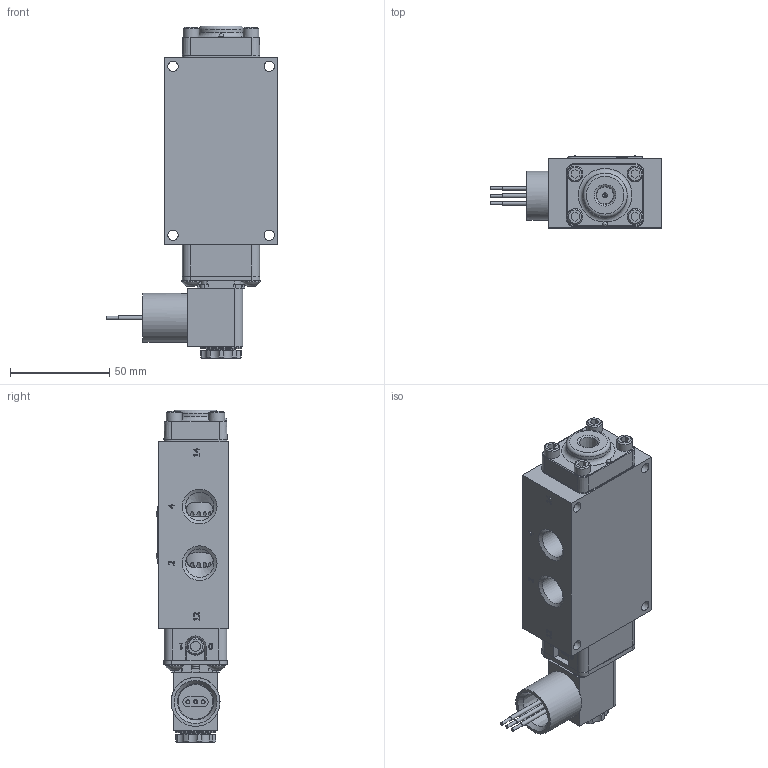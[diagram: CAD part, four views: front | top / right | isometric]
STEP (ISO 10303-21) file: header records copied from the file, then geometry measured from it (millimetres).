
FILE_DESCRIPTION(/* description */ (''),/* implementation_level */ '2;1');
FILE_NAME(/* name */ 'D:\Website Files\stp\Valves\Standard\ESR\ESR3J.stp',/* time_stamp */ '2015-03-30T18:21:54-04:00',/* author */ ('RMcKenna'),/* organization */ (''),/* preprocessor_version */ 'ST-DEVELOPER v15.6',/* originating_system */ 'Autodesk Inventor 2015',/* authorisation */ '');
FILE_SCHEMA (('AUTOMOTIVE_DESIGN { 1 0 10303 214 3 1 1 }'));
Products named in the file (1): Part62
Bounding box: 86.4 x 36.27 x 166.99 mm (x, y, z)
Volume: 212060.5 mm3; surface area: 72370.1 mm2
Topology: 1 solids, 30 shells, 1682 faces, 4133 edges, 2637 vertices
Faces by surface type: plane 763, cylinder 398, cone 279, torus 120, bspline 115, sphere 7
Full cylindrical faces by diameter (mm): 1.016 x1, 1.3 x1, 1.397 x1, 1.5 x2, 1.524 x3, 2.007 x2, 2.032 x7, 2.07 x2, 2.261 x2, 2.35 x4, 2.362 x2, 2.381 x2, 2.778 x2, 2.8 x1, 2.819 x1, 3 x4, 3.048 x2, 3.175 x1, 3.4 x1, 3.683 x11, 3.912 x3, 4.191 x2, 4.305 x1, 4.394 x1, 4.826 x8, 4.953 x1, 5.15 x4, 5.156 x12, 5.5 x1, 6.553 x1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
Entity records: 52666 total; most frequent: CARTESIAN_POINT 13462, DIRECTION 7619, ORIENTED_EDGE 7446, EDGE_CURVE 3721, AXIS2_PLACEMENT_3D 2892, VERTEX_POINT 2510, EDGE_LOOP 2157, LINE 1835
